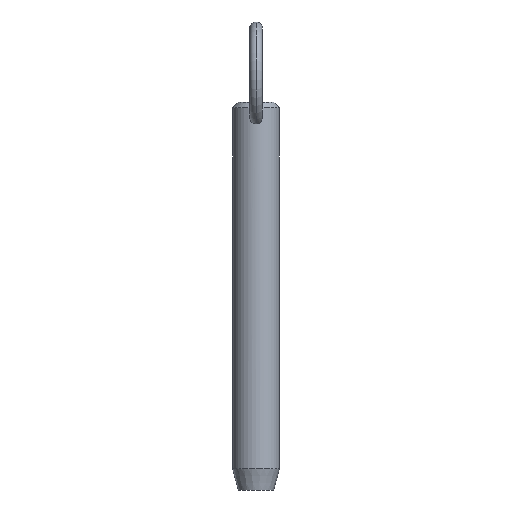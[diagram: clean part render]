
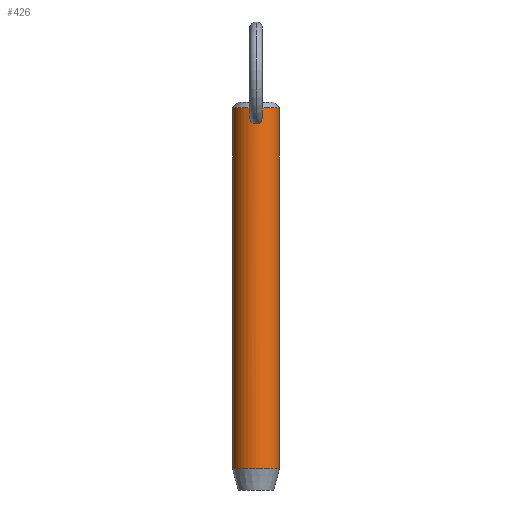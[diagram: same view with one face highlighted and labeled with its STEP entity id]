
A CAD part, front view. The second image highlights one B-rep face of the part: STEP entity #426.
In plain terms, the highlighted cylindrical face has radius 5.55 mm (diameter 11.1 mm), a partial arc.
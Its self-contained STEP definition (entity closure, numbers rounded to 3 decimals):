
#4 = CARTESIAN_POINT ( 'NONE',  ( -1.362, -5.381, 73.232 ) ) ;
#8 = CARTESIAN_POINT ( 'NONE',  ( -0.211, -5.547, 75.829 ) ) ;
#29 = DIRECTION ( 'NONE',  ( -1., 0., 0. ) ) ;
#30 = CARTESIAN_POINT ( 'NONE',  ( 1.055, -5.449, 72.805 ) ) ;
#35 = CARTESIAN_POINT ( 'NONE',  ( -0.807, -5.492, 72.605 ) ) ;
#43 = CARTESIAN_POINT ( 'NONE',  ( 5.55, 0., -9.2 ) ) ;
#45 = CARTESIAN_POINT ( 'NONE',  ( -0.513, -5.527, 75.723 ) ) ;
#51 = CIRCLE ( 'NONE', #214, 5.55 ) ;
#58 = ORIENTED_EDGE ( 'NONE', *, *, #205, .T. ) ;
#63 = CARTESIAN_POINT ( 'NONE',  ( 0.977, -5.464, 72.732 ) ) ;
#64 = DIRECTION ( 'NONE',  ( 0., 0., -1. ) ) ;
#67 = CARTESIAN_POINT ( 'NONE',  ( 1.295, -5.397, 74.882 ) ) ;
#76 = VECTOR ( 'NONE', #392, 1000. ) ;
#80 = CARTESIAN_POINT ( 'NONE',  ( -1.5, -5.343, 73.853 ) ) ;
#88 = CARTESIAN_POINT ( 'NONE',  ( 0., 0., 76.15 ) ) ;
#90 = DIRECTION ( 'NONE',  ( 0., 0., -1. ) ) ;
#97 = CARTESIAN_POINT ( 'NONE',  ( -5.55, 0., 76.15 ) ) ;
#102 = CARTESIAN_POINT ( 'NONE',  ( 0., 0., 71.1 ) ) ;
#104 = EDGE_CURVE ( 'NONE', #419, #499, #275, .T. ) ;
#105 = CARTESIAN_POINT ( 'NONE',  ( 0., -5.55, 75.845 ) ) ;
#106 = CARTESIAN_POINT ( 'NONE',  ( 0.417, -5.535, 75.767 ) ) ;
#108 = VERTEX_POINT ( 'NONE', #43 ) ;
#111 = EDGE_CURVE ( 'NONE', #118, #108, #254, .T. ) ;
#118 = VERTEX_POINT ( 'NONE', #441 ) ;
#147 = CARTESIAN_POINT ( 'NONE',  ( 0.523, -5.526, 72.466 ) ) ;
#151 = CARTESIAN_POINT ( 'NONE',  ( 0.106, -5.55, 75.845 ) ) ;
#153 = CARTESIAN_POINT ( 'NONE',  ( 1.194, -5.422, 75.071 ) ) ;
#154 = CARTESIAN_POINT ( 'NONE',  ( -0.107, -5.55, 72.377 ) ) ;
#157 = CARTESIAN_POINT ( 'NONE',  ( -1.054, -5.449, 72.804 ) ) ;
#158 = CARTESIAN_POINT ( 'NONE',  ( 5.55, 0., 71.1 ) ) ;
#165 = CARTESIAN_POINT ( 'NONE',  ( -1.44, -5.36, 74.487 ) ) ;
#167 = CARTESIAN_POINT ( 'NONE',  ( -0.416, -5.535, 75.767 ) ) ;
#184 = CARTESIAN_POINT ( 'NONE',  ( 0., -5.55, 72.377 ) ) ;
#187 = CARTESIAN_POINT ( 'NONE',  ( 0.213, -5.547, 72.388 ) ) ;
#192 = CARTESIAN_POINT ( 'NONE',  ( -0.523, -5.526, 72.466 ) ) ;
#195 = CARTESIAN_POINT ( 'NONE',  ( -5.55, 0., -9.2 ) ) ;
#196 = CARTESIAN_POINT ( 'NONE',  ( -0.976, -5.464, 72.731 ) ) ;
#199 = CARTESIAN_POINT ( 'NONE',  ( -0.212, -5.547, 72.388 ) ) ;
#204 = CARTESIAN_POINT ( 'NONE',  ( -1.477, -5.35, 73.642 ) ) ;
#205 = EDGE_CURVE ( 'NONE', #118, #260, #51, .T. ) ;
#208 = ORIENTED_EDGE ( 'NONE', *, *, #285, .T. ) ;
#213 = CARTESIAN_POINT ( 'NONE',  ( -0.939, -5.472, 75.41 ) ) ;
#214 = AXIS2_PLACEMENT_3D ( 'NONE', #88, #90, #456 ) ;
#233 = CARTESIAN_POINT ( 'NONE',  ( 0.421, -5.535, 72.432 ) ) ;
#237 = DIRECTION ( 'NONE',  ( -1., 0., 0. ) ) ;
#239 = CARTESIAN_POINT ( 'NONE',  ( 0., -5.55, 72.377 ) ) ;
#242 = AXIS2_PLACEMENT_3D ( 'NONE', #475, #357, #29 ) ;
#245 = CYLINDRICAL_SURFACE ( 'NONE', #348, 5.55 ) ;
#254 = LINE ( 'NONE', #158, #274 ) ;
#256 = CARTESIAN_POINT ( 'NONE',  ( -0.785, -5.497, 75.558 ) ) ;
#260 = VERTEX_POINT ( 'NONE', #97 ) ;
#271 = CARTESIAN_POINT ( 'NONE',  ( -5.55, 0., 71.1 ) ) ;
#274 = VECTOR ( 'NONE', #301, 1000. ) ;
#275 = B_SPLINE_CURVE_WITH_KNOTS ( 'NONE', 3,
 ( #401, #154, #199, #366, #192, #485, #35, #196, #157, #443, #4, #493, #204, #80, #374, #296, #165, #369, #373, #213, #256, #45, #167, #8, #332, #452 ),
 .UNSPECIFIED., .F., .F.,
 ( 4, 2, 2, 2, 2, 2, 2, 2, 2, 2, 2, 2, 4 ),
 ( 0.01, 0.01, 0.01, 0.011, 0.011, 0.012, 0.012, 0.012, 0.013, 0.013, 0.014, 0.014, 0.015 ),
 .UNSPECIFIED. ) ;
#278 = EDGE_CURVE ( 'NONE', #260, #519, #483, .T. ) ;
#279 = CARTESIAN_POINT ( 'NONE',  ( 0.716, -5.504, 72.552 ) ) ;
#282 = CARTESIAN_POINT ( 'NONE',  ( 0., -5.55, 75.845 ) ) ;
#285 = EDGE_CURVE ( 'NONE', #519, #108, #467, .T. ) ;
#296 = CARTESIAN_POINT ( 'NONE',  ( -1.485, -5.348, 74.279 ) ) ;
#301 = DIRECTION ( 'NONE',  ( 0., 0., -1. ) ) ;
#316 = CARTESIAN_POINT ( 'NONE',  ( 1.503, -5.343, 73.959 ) ) ;
#332 = CARTESIAN_POINT ( 'NONE',  ( -0.106, -5.55, 75.845 ) ) ;
#348 = AXIS2_PLACEMENT_3D ( 'NONE', #102, #64, #237 ) ;
#354 = CARTESIAN_POINT ( 'NONE',  ( 1.486, -5.347, 74.274 ) ) ;
#357 = DIRECTION ( 'NONE',  ( 0., 0., 1. ) ) ;
#358 = ORIENTED_EDGE ( 'NONE', *, *, #278, .T. ) ;
#359 = CARTESIAN_POINT ( 'NONE',  ( 1.363, -5.38, 73.234 ) ) ;
#365 = ORIENTED_EDGE ( 'NONE', *, *, #462, .T. ) ;
#366 = CARTESIAN_POINT ( 'NONE',  ( -0.42, -5.535, 72.432 ) ) ;
#369 = CARTESIAN_POINT ( 'NONE',  ( -1.294, -5.398, 74.886 ) ) ;
#373 = CARTESIAN_POINT ( 'NONE',  ( -1.195, -5.421, 75.071 ) ) ;
#374 = CARTESIAN_POINT ( 'NONE',  ( -1.503, -5.343, 73.959 ) ) ;
#390 = ORIENTED_EDGE ( 'NONE', *, *, #111, .F. ) ;
#392 = DIRECTION ( 'NONE',  ( 0., 0., -1. ) ) ;
#393 = CARTESIAN_POINT ( 'NONE',  ( 0.807, -5.492, 72.606 ) ) ;
#395 = CARTESIAN_POINT ( 'NONE',  ( 1.44, -5.36, 74.486 ) ) ;
#401 = CARTESIAN_POINT ( 'NONE',  ( 0., -5.55, 72.377 ) ) ;
#419 = VERTEX_POINT ( 'NONE', #239 ) ;
#426 = ADVANCED_FACE ( 'NONE', ( #435, #454 ), #245, .T. ) ;
#431 = ORIENTED_EDGE ( 'NONE', *, *, #104, .T. ) ;
#433 = CARTESIAN_POINT ( 'NONE',  ( 0.107, -5.55, 72.377 ) ) ;
#435 = FACE_OUTER_BOUND ( 'NONE', #440, .T. ) ;
#436 = CARTESIAN_POINT ( 'NONE',  ( 1.5, -5.343, 73.854 ) ) ;
#439 = CARTESIAN_POINT ( 'NONE',  ( 1.477, -5.35, 73.644 ) ) ;
#440 = EDGE_LOOP ( 'NONE', ( #390, #58, #358, #208 ) ) ;
#441 = CARTESIAN_POINT ( 'NONE',  ( 5.55, 0., 76.15 ) ) ;
#443 = CARTESIAN_POINT ( 'NONE',  ( -1.26, -5.407, 73.042 ) ) ;
#452 = CARTESIAN_POINT ( 'NONE',  ( 0., -5.55, 75.845 ) ) ;
#454 = FACE_BOUND ( 'NONE', #513, .T. ) ;
#456 = DIRECTION ( 'NONE',  ( 1., 0., 0. ) ) ;
#462 = EDGE_CURVE ( 'NONE', #499, #419, #517, .T. ) ;
#467 = CIRCLE ( 'NONE', #242, 5.55 ) ;
#473 = CARTESIAN_POINT ( 'NONE',  ( 0.515, -5.527, 75.722 ) ) ;
#475 = CARTESIAN_POINT ( 'NONE',  ( 0., 0., -9.2 ) ) ;
#480 = CARTESIAN_POINT ( 'NONE',  ( 0.786, -5.497, 75.557 ) ) ;
#483 = LINE ( 'NONE', #271, #76 ) ;
#485 = CARTESIAN_POINT ( 'NONE',  ( -0.716, -5.504, 72.552 ) ) ;
#493 = CARTESIAN_POINT ( 'NONE',  ( -1.455, -5.356, 73.536 ) ) ;
#499 = VERTEX_POINT ( 'NONE', #105 ) ;
#513 = EDGE_LOOP ( 'NONE', ( #365, #431 ) ) ;
#515 = CARTESIAN_POINT ( 'NONE',  ( 1.26, -5.407, 73.043 ) ) ;
#516 = CARTESIAN_POINT ( 'NONE',  ( 1.455, -5.356, 73.538 ) ) ;
#517 = B_SPLINE_CURVE_WITH_KNOTS ( 'NONE', 3,
 ( #282, #151, #521, #106, #473, #480, #524, #153, #67, #395, #354, #316, #436, #439, #516, #359, #515, #30, #63, #393, #279, #147, #233, #187, #433, #184 ),
 .UNSPECIFIED., .F., .F.,
 ( 4, 2, 2, 2, 2, 2, 2, 2, 2, 2, 2, 2, 4 ),
 ( 0.005, 0.005, 0.005, 0.006, 0.006, 0.007, 0.007, 0.008, 0.008, 0.009, 0.009, 0.009, 0.01 ),
 .UNSPECIFIED. ) ;
#519 = VERTEX_POINT ( 'NONE', #195 ) ;
#521 = CARTESIAN_POINT ( 'NONE',  ( 0.214, -5.547, 75.828 ) ) ;
#524 = CARTESIAN_POINT ( 'NONE',  ( 0.941, -5.471, 75.407 ) ) ;
